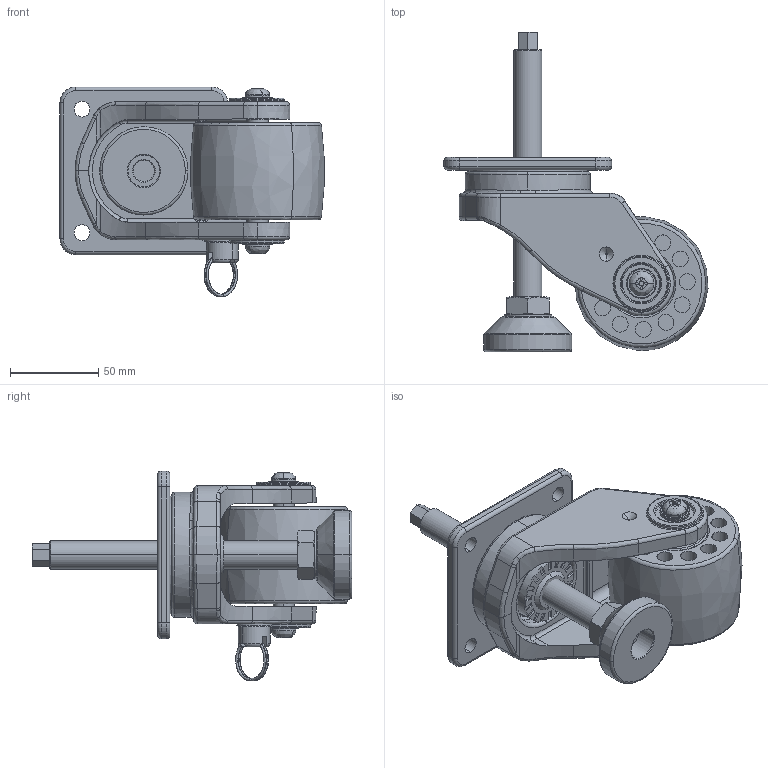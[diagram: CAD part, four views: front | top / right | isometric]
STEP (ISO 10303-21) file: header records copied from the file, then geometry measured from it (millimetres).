
FILE_DESCRIPTION(/* description */ (''),/* implementation_level */ '2;1');
FILE_NAME(/* name */ 'C02-1-1000FB-1.stp',/* time_stamp */ '2024-08-05T19:13:53+08:00',/* author */ (''),/* organization */ (''),/* preprocessor_version */ 'ST-DEVELOPER v16.7',/* originating_system */ 'SIEMENS PLM Software NX 12.0',/* authorisation */ '');
FILE_SCHEMA (('AP203_CONFIGURATION_CONTROLLED_3D_DESIGN_OF_MECHANICAL_PARTS_AND_ASSEMBLIES_MIM_LF { 1 0 10303 403 2 1 2}'));
Length unit declared in the file: millimetre
Products named in the file (1): ASUS1E14541Fqrju
Bounding box: 149.55 x 181 x 118.91 mm (x, y, z)
Volume: 368630.2 mm3; surface area: 130851.1 mm2
Topology: 33 solids, 34 shells, 969 faces, 2439 edges, 1461 vertices
Faces by surface type: plane 343, cylinder 220, torus 170, sphere 92, cone 75, bspline 69
Entity records: 34591 total; most frequent: CARTESIAN_POINT 12169, DIRECTION 4717, ORIENTED_EDGE 4596, EDGE_CURVE 2301, AXIS2_PLACEMENT_3D 1983, VERTEX_POINT 1415, CIRCLE 1076, EDGE_LOOP 1065
